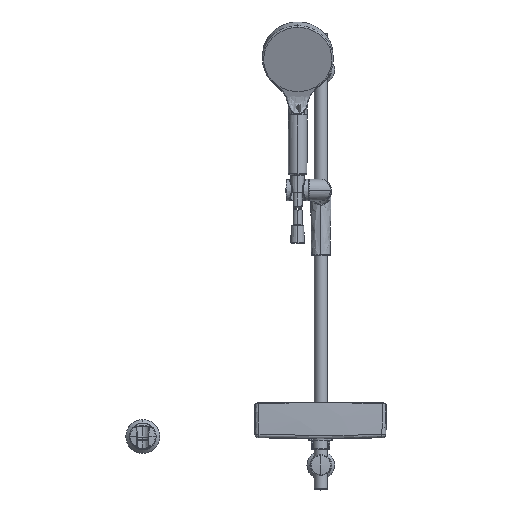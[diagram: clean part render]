
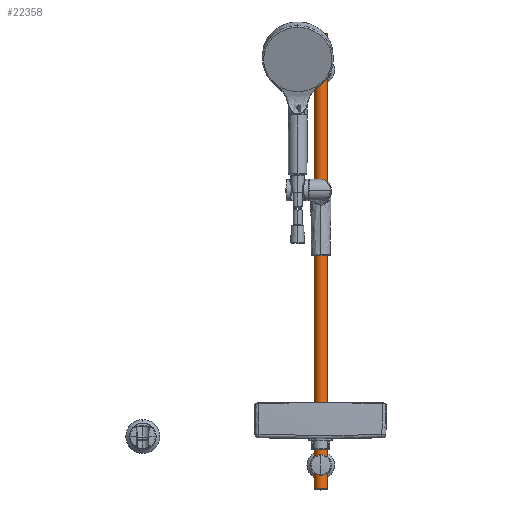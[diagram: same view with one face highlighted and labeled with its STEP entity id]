
A CAD part, top view. The second image highlights one B-rep face of the part: STEP entity #22358.
In plain terms, the highlighted cylindrical face has radius 10.95 mm (diameter 21.9 mm), a partial arc.
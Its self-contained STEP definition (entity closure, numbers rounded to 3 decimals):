
#662 = CYLINDRICAL_SURFACE ( 'NONE', #4031, 10.95 ) ;
#1165 = VECTOR ( 'NONE', #14566, 1000. ) ;
#1595 = LINE ( 'NONE', #3365, #23443 ) ;
#2726 = CARTESIAN_POINT ( 'NONE',  ( 0., -699.73, 54. ) ) ;
#2763 = CIRCLE ( 'NONE', #32463, 10.95 ) ;
#3365 = CARTESIAN_POINT ( 'NONE',  ( -10.95, -699.73, 54. ) ) ;
#4031 = AXIS2_PLACEMENT_3D ( 'NONE', #2726, #26144, #26377 ) ;
#4319 = VERTEX_POINT ( 'NONE', #6749 ) ;
#5917 = DIRECTION ( 'NONE',  ( 0., 1., 0. ) ) ;
#6746 = CARTESIAN_POINT ( 'NONE',  ( 10.95, -699.73, 54. ) ) ;
#6749 = CARTESIAN_POINT ( 'NONE',  ( -10.95, -699.73, 54. ) ) ;
#7364 = CIRCLE ( 'NONE', #11020, 10.95 ) ;
#8240 = CARTESIAN_POINT ( 'NONE',  ( 0., 60.27, 54. ) ) ;
#8640 = ORIENTED_EDGE ( 'NONE', *, *, #9825, .T. ) ;
#8914 = EDGE_CURVE ( 'NONE', #4319, #22062, #1595, .T. ) ;
#9825 = EDGE_CURVE ( 'NONE', #10441, #9888, #23858, .T. ) ;
#9888 = VERTEX_POINT ( 'NONE', #20204 ) ;
#10224 = EDGE_CURVE ( 'NONE', #22062, #9888, #7364, .T. ) ;
#10441 = VERTEX_POINT ( 'NONE', #23863 ) ;
#11020 = AXIS2_PLACEMENT_3D ( 'NONE', #8240, #16501, #11136 ) ;
#11136 = DIRECTION ( 'NONE',  ( 1., 0., 0. ) ) ;
#12307 = EDGE_CURVE ( 'NONE', #4319, #10441, #2763, .T. ) ;
#13497 = ORIENTED_EDGE ( 'NONE', *, *, #12307, .T. ) ;
#14566 = DIRECTION ( 'NONE',  ( 0., 1., 0. ) ) ;
#16501 = DIRECTION ( 'NONE',  ( 0., 1., 0. ) ) ;
#17920 = CARTESIAN_POINT ( 'NONE',  ( 0., -699.73, 54. ) ) ;
#20204 = CARTESIAN_POINT ( 'NONE',  ( 10.95, 60.27, 54. ) ) ;
#22062 = VERTEX_POINT ( 'NONE', #24869 ) ;
#22358 = ADVANCED_FACE ( 'NONE', ( #33235 ), #662, .T. ) ;
#23443 = VECTOR ( 'NONE', #5917, 1000. ) ;
#23858 = LINE ( 'NONE', #6746, #1165 ) ;
#23863 = CARTESIAN_POINT ( 'NONE',  ( 10.95, -699.73, 54. ) ) ;
#24869 = CARTESIAN_POINT ( 'NONE',  ( -10.95, 60.27, 54. ) ) ;
#24930 = EDGE_LOOP ( 'NONE', ( #13497, #8640, #33493, #29486 ) ) ;
#26144 = DIRECTION ( 'NONE',  ( 0., 1., 0. ) ) ;
#26249 = DIRECTION ( 'NONE',  ( 1., 0., 0. ) ) ;
#26377 = DIRECTION ( 'NONE',  ( -1., 0., 0. ) ) ;
#29486 = ORIENTED_EDGE ( 'NONE', *, *, #8914, .F. ) ;
#32463 = AXIS2_PLACEMENT_3D ( 'NONE', #17920, #33622, #26249 ) ;
#33235 = FACE_OUTER_BOUND ( 'NONE', #24930, .T. ) ;
#33493 = ORIENTED_EDGE ( 'NONE', *, *, #10224, .F. ) ;
#33622 = DIRECTION ( 'NONE',  ( 0., 1., 0. ) ) ;
